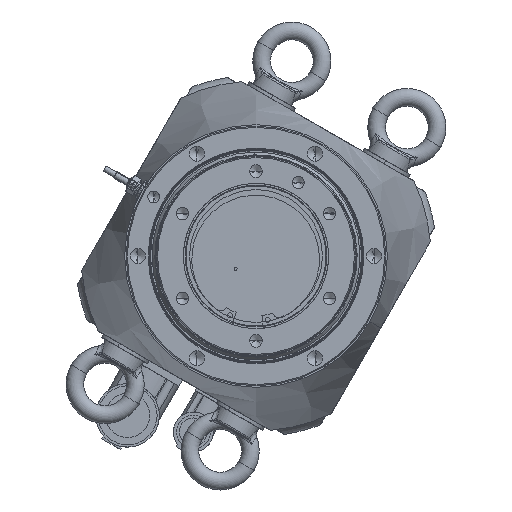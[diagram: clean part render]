
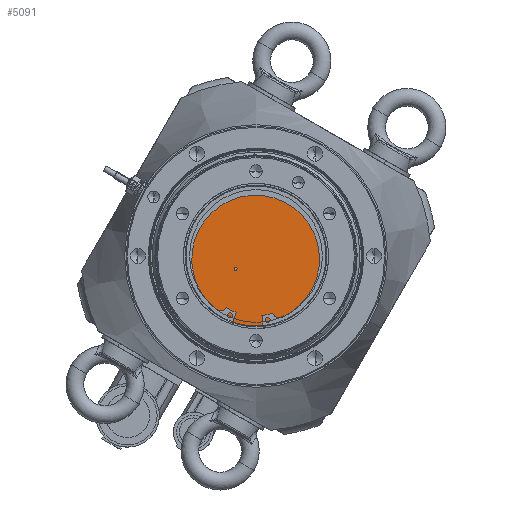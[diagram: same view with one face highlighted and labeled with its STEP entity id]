
A CAD part, front view. The second image highlights one B-rep face of the part: STEP entity #5091.
In plain terms, the highlighted planar face has unit normal (0, -1, 0).
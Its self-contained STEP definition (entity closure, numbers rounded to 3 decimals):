
#1108 = CARTESIAN_POINT ( 'NONE',  ( 0., -49.5, 0. ) ) ;
#2643 = VERTEX_POINT ( 'NONE', #18990 ) ;
#2727 = DIRECTION ( 'NONE',  ( 0.092, 0., 0.996 ) ) ;
#3213 = DIRECTION ( 'NONE',  ( 0.092, 0., 0.996 ) ) ;
#5091 = ADVANCED_FACE ( 'NONE', ( #23532, #41513 ), #14185, .F. ) ;
#7401 = AXIS2_PLACEMENT_3D ( 'NONE', #33506, #42957, #2727 ) ;
#8993 = DIRECTION ( 'NONE',  ( 0., 1., 0. ) ) ;
#9299 = ORIENTED_EDGE ( 'NONE', *, *, #40518, .T. ) ;
#10298 = EDGE_LOOP ( 'NONE', ( #9299, #23289 ) ) ;
#10977 = DIRECTION ( 'NONE',  ( 0.092, 0., 0.996 ) ) ;
#14185 = PLANE ( 'NONE',  #7401 ) ;
#14742 = AXIS2_PLACEMENT_3D ( 'NONE', #1108, #32791, #50715 ) ;
#15366 = ORIENTED_EDGE ( 'NONE', *, *, #36206, .F. ) ;
#17719 = CARTESIAN_POINT ( 'NONE',  ( -13.836, -49.5, -8.755 ) ) ;
#18910 = VERTEX_POINT ( 'NONE', #28474 ) ;
#18990 = CARTESIAN_POINT ( 'NONE',  ( 4.377, -49.5, 47.298 ) ) ;
#19146 = DIRECTION ( 'NONE',  ( 0.092, 0., 0.996 ) ) ;
#22401 = EDGE_LOOP ( 'NONE', ( #15366, #47712 ) ) ;
#23289 = ORIENTED_EDGE ( 'NONE', *, *, #48173, .T. ) ;
#23532 = FACE_OUTER_BOUND ( 'NONE', #22401, .T. ) ;
#24392 = CARTESIAN_POINT ( 'NONE',  ( -13.928, -49.5, -9.751 ) ) ;
#26303 = CARTESIAN_POINT ( 'NONE',  ( -4.377, -49.5, -47.298 ) ) ;
#26459 = CIRCLE ( 'NONE', #52719, 1. ) ;
#28474 = CARTESIAN_POINT ( 'NONE',  ( -13.744, -49.5, -7.759 ) ) ;
#32791 = DIRECTION ( 'NONE',  ( 0., 1., 0. ) ) ;
#33506 = CARTESIAN_POINT ( 'NONE',  ( 0., -49.5, 0. ) ) ;
#33993 = DIRECTION ( 'NONE',  ( 0., 1., 0. ) ) ;
#36206 = EDGE_CURVE ( 'NONE', #57990, #2643, #57891, .T. ) ;
#40518 = EDGE_CURVE ( 'NONE', #53440, #18910, #41623, .T. ) ;
#41414 = CIRCLE ( 'NONE', #48871, 47.5 ) ;
#41513 = FACE_BOUND ( 'NONE', #10298, .T. ) ;
#41623 = CIRCLE ( 'NONE', #43477, 1. ) ;
#42957 = DIRECTION ( 'NONE',  ( 0., 1., 0. ) ) ;
#43477 = AXIS2_PLACEMENT_3D ( 'NONE', #17719, #8993, #19146 ) ;
#47712 = ORIENTED_EDGE ( 'NONE', *, *, #54607, .F. ) ;
#48173 = EDGE_CURVE ( 'NONE', #18910, #53440, #26459, .T. ) ;
#48871 = AXIS2_PLACEMENT_3D ( 'NONE', #56934, #33993, #3213 ) ;
#50715 = DIRECTION ( 'NONE',  ( 0.092, 0., 0.996 ) ) ;
#51170 = CARTESIAN_POINT ( 'NONE',  ( -13.836, -49.5, -8.755 ) ) ;
#51431 = DIRECTION ( 'NONE',  ( 0., 1., 0. ) ) ;
#52719 = AXIS2_PLACEMENT_3D ( 'NONE', #51170, #51431, #10977 ) ;
#53440 = VERTEX_POINT ( 'NONE', #24392 ) ;
#54607 = EDGE_CURVE ( 'NONE', #2643, #57990, #41414, .T. ) ;
#56934 = CARTESIAN_POINT ( 'NONE',  ( 0., -49.5, 0. ) ) ;
#57891 = CIRCLE ( 'NONE', #14742, 47.5 ) ;
#57990 = VERTEX_POINT ( 'NONE', #26303 ) ;
